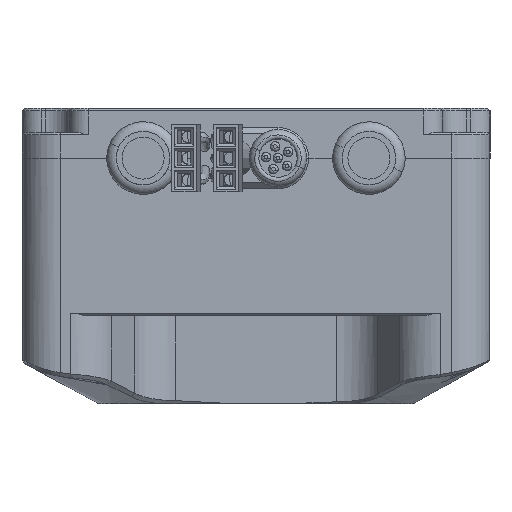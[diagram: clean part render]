
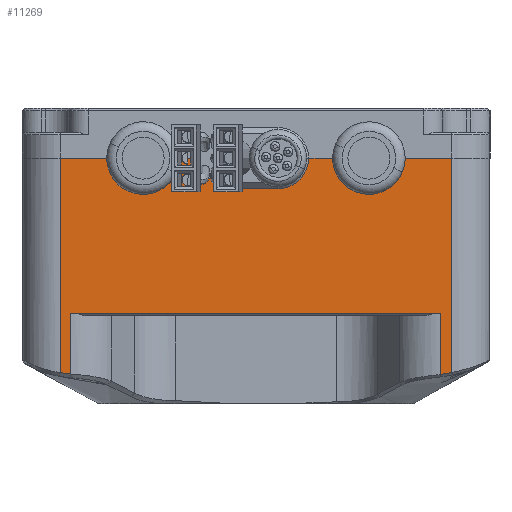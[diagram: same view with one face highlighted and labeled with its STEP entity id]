
A CAD part, left-side view. The second image highlights one B-rep face of the part: STEP entity #11269.
In plain terms, the highlighted planar face has unit normal (-1, 0, 0).
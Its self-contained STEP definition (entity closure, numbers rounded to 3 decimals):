
#405 = DIRECTION ( 'NONE',  ( 0., -1., 0. ) ) ;
#1528 = DIRECTION ( 'NONE',  ( -1., 0., 0. ) ) ;
#1611 = VERTEX_POINT ( 'NONE', #14687 ) ;
#1888 = EDGE_CURVE ( 'NONE', #6424, #31636, #35539, .T. ) ;
#2221 = VERTEX_POINT ( 'NONE', #2758 ) ;
#2758 = CARTESIAN_POINT ( 'NONE',  ( -32.649, -22.804, 8.25 ) ) ;
#2765 = EDGE_CURVE ( 'NONE', #20085, #53333, #43145, .T. ) ;
#3231 = VERTEX_POINT ( 'NONE', #52445 ) ;
#3248 = ORIENTED_EDGE ( 'NONE', *, *, #45598, .T. ) ;
#3408 = VERTEX_POINT ( 'NONE', #21738 ) ;
#3613 = VECTOR ( 'NONE', #42327, 1000. ) ;
#3898 = EDGE_CURVE ( 'NONE', #35942, #38834, #51789, .T. ) ;
#3917 = CARTESIAN_POINT ( 'NONE',  ( -32.649, 16.327, 1.934 ) ) ;
#4263 = B_SPLINE_CURVE_WITH_KNOTS ( 'NONE', 3,
 ( #35607, #38681, #51658, #21839 ),
 .UNSPECIFIED., .F., .F.,
 ( 4, 4 ),
 ( 0., 1. ),
 .UNSPECIFIED. ) ;
#5555 = EDGE_CURVE ( 'NONE', #3408, #38605, #19170, .T. ) ;
#5679 = CARTESIAN_POINT ( 'NONE',  ( -32.649, 8.342, 24.5 ) ) ;
#6332 = LINE ( 'NONE', #18968, #27639 ) ;
#6413 = CARTESIAN_POINT ( 'NONE',  ( -32.649, -5.78, 24.5 ) ) ;
#6424 = VERTEX_POINT ( 'NONE', #16618 ) ;
#6702 = DIRECTION ( 'NONE',  ( 0., 0., 1. ) ) ;
#6796 = DIRECTION ( 'NONE',  ( 0., 1., 0. ) ) ;
#8132 = CARTESIAN_POINT ( 'NONE',  ( -32.649, 17.02, 2.036 ) ) ;
#8530 = CARTESIAN_POINT ( 'NONE',  ( -32.649, -22.804, 1.5 ) ) ;
#8555 = EDGE_CURVE ( 'NONE', #42346, #31636, #8637, .T. ) ;
#8637 = LINE ( 'NONE', #25159, #40606 ) ;
#9279 = ORIENTED_EDGE ( 'NONE', *, *, #14634, .T. ) ;
#9354 = DIRECTION ( 'NONE',  ( 0., -1., 0. ) ) ;
#9377 = VECTOR ( 'NONE', #38038, 1000. ) ;
#10460 = AXIS2_PLACEMENT_3D ( 'NONE', #5679, #1528, #39047 ) ;
#10898 = ORIENTED_EDGE ( 'NONE', *, *, #8555, .T. ) ;
#11088 = LINE ( 'NONE', #24610, #27833 ) ;
#11089 = VECTOR ( 'NONE', #9354, 1000. ) ;
#11269 = ADVANCED_FACE ( 'NONE', ( #36985 ), #36426, .T. ) ;
#11721 = VECTOR ( 'NONE', #30705, 1000. ) ;
#12176 = CARTESIAN_POINT ( 'NONE',  ( -32.649, 16.515, 1.959 ) ) ;
#12452 = DIRECTION ( 'NONE',  ( 0., 0., 1. ) ) ;
#12731 = CARTESIAN_POINT ( 'NONE',  ( -32.649, 15.964, 1.899 ) ) ;
#13010 = AXIS2_PLACEMENT_3D ( 'NONE', #18210, #48047, #51922 ) ;
#13331 = CIRCLE ( 'NONE', #19492, 2.6 ) ;
#13771 = EDGE_CURVE ( 'NONE', #53333, #2221, #34331, .T. ) ;
#13784 = CARTESIAN_POINT ( 'NONE',  ( -32.649, -1.18, 21.9 ) ) ;
#14222 = CARTESIAN_POINT ( 'NONE',  ( -32.649, -22.804, 1.845 ) ) ;
#14634 = EDGE_CURVE ( 'NONE', #35942, #21351, #38816, .T. ) ;
#14687 = CARTESIAN_POINT ( 'NONE',  ( -32.649, -23.98, 2.054 ) ) ;
#15684 = CARTESIAN_POINT ( 'NONE',  ( -32.649, 5.042, 24.5 ) ) ;
#16618 = CARTESIAN_POINT ( 'NONE',  ( -32.649, -12.002, 24.5 ) ) ;
#16855 = LINE ( 'NONE', #41683, #28041 ) ;
#17757 = VERTEX_POINT ( 'NONE', #48382 ) ;
#17839 = EDGE_CURVE ( 'NONE', #1611, #42346, #11088, .T. ) ;
#18210 = CARTESIAN_POINT ( 'NONE',  ( -32.649, -1.18, 24.5 ) ) ;
#18245 = CARTESIAN_POINT ( 'NONE',  ( -32.649, -18.602, 24.5 ) ) ;
#18690 = EDGE_CURVE ( 'NONE', #27779, #1611, #4263, .T. ) ;
#18968 = CARTESIAN_POINT ( 'NONE',  ( -32.649, 21.02, 24.5 ) ) ;
#19170 = CIRCLE ( 'NONE', #13010, 2.6 ) ;
#19481 = ORIENTED_EDGE ( 'NONE', *, *, #13771, .T. ) ;
#19492 = AXIS2_PLACEMENT_3D ( 'NONE', #6413, #20704, #12452 ) ;
#19817 = ORIENTED_EDGE ( 'NONE', *, *, #38552, .T. ) ;
#20085 = VERTEX_POINT ( 'NONE', #12731 ) ;
#20448 = CARTESIAN_POINT ( 'NONE',  ( -32.649, 16.936, 2.021 ) ) ;
#20704 = DIRECTION ( 'NONE',  ( -1., 0., 0. ) ) ;
#20710 = CARTESIAN_POINT ( 'NONE',  ( -32.649, 15.964, 1.899 ) ) ;
#21293 = DIRECTION ( 'NONE',  ( 0., 1., 0. ) ) ;
#21351 = VERTEX_POINT ( 'NONE', #31180 ) ;
#21738 = CARTESIAN_POINT ( 'NONE',  ( -32.649, 1.42, 24.5 ) ) ;
#21839 = CARTESIAN_POINT ( 'NONE',  ( -32.649, -23.98, 2.054 ) ) ;
#22092 = CARTESIAN_POINT ( 'NONE',  ( -32.649, -15.302, 24.5 ) ) ;
#22898 = VECTOR ( 'NONE', #405, 1000. ) ;
#23133 = DIRECTION ( 'NONE',  ( 0., 1., 0. ) ) ;
#23178 = AXIS2_PLACEMENT_3D ( 'NONE', #23463, #32836, #24280 ) ;
#23463 = CARTESIAN_POINT ( 'NONE',  ( -32.649, 0., 0. ) ) ;
#24280 = DIRECTION ( 'NONE',  ( 0., 0., 1. ) ) ;
#24607 = CARTESIAN_POINT ( 'NONE',  ( -32.649, 16.807, 2. ) ) ;
#24610 = CARTESIAN_POINT ( 'NONE',  ( -32.649, -23.98, 24.5 ) ) ;
#25159 = CARTESIAN_POINT ( 'NONE',  ( -32.649, 21.02, 24.5 ) ) ;
#25497 = EDGE_CURVE ( 'NONE', #3408, #38834, #43134, .T. ) ;
#25794 = EDGE_CURVE ( 'NONE', #17757, #3231, #13331, .T. ) ;
#26160 = CARTESIAN_POINT ( 'NONE',  ( -32.649, 0., 21.9 ) ) ;
#27477 = EDGE_LOOP ( 'NONE', ( #38329, #9279, #19817, #38775, #28261, #19481, #3248, #53433, #28083, #10898, #38450, #35602, #41213, #28112, #39780, #33855 ) ) ;
#27639 = VECTOR ( 'NONE', #23133, 1000. ) ;
#27779 = VERTEX_POINT ( 'NONE', #14222 ) ;
#27833 = VECTOR ( 'NONE', #6702, 1000. ) ;
#28041 = VECTOR ( 'NONE', #40852, 1000. ) ;
#28083 = ORIENTED_EDGE ( 'NONE', *, *, #17839, .T. ) ;
#28112 = ORIENTED_EDGE ( 'NONE', *, *, #51476, .F. ) ;
#28176 = CARTESIAN_POINT ( 'NONE',  ( -32.649, 16.15, 1.915 ) ) ;
#28261 = ORIENTED_EDGE ( 'NONE', *, *, #2765, .T. ) ;
#30705 = DIRECTION ( 'NONE',  ( 0., 0., 1. ) ) ;
#30764 = EDGE_CURVE ( 'NONE', #6424, #3231, #6332, .T. ) ;
#31180 = CARTESIAN_POINT ( 'NONE',  ( -32.649, 17.02, 24.5 ) ) ;
#31636 = VERTEX_POINT ( 'NONE', #18245 ) ;
#31881 = CARTESIAN_POINT ( 'NONE',  ( -32.649, 21.02, 24.5 ) ) ;
#32024 = AXIS2_PLACEMENT_3D ( 'NONE', #22092, #51627, #51105 ) ;
#32825 = VERTEX_POINT ( 'NONE', #8132 ) ;
#32836 = DIRECTION ( 'NONE',  ( -1., 0., 0. ) ) ;
#33615 = LINE ( 'NONE', #8530, #9377 ) ;
#33855 = ORIENTED_EDGE ( 'NONE', *, *, #25497, .T. ) ;
#34028 = CARTESIAN_POINT ( 'NONE',  ( -32.649, 15.964, 8. ) ) ;
#34331 = LINE ( 'NONE', #50380, #22898 ) ;
#34562 = CARTESIAN_POINT ( 'NONE',  ( -32.649, 21.02, 24.5 ) ) ;
#35539 = CIRCLE ( 'NONE', #32024, 3.3 ) ;
#35602 = ORIENTED_EDGE ( 'NONE', *, *, #30764, .T. ) ;
#35607 = CARTESIAN_POINT ( 'NONE',  ( -32.649, -22.804, 1.845 ) ) ;
#35942 = VERTEX_POINT ( 'NONE', #51269 ) ;
#36426 = PLANE ( 'NONE',  #23178 ) ;
#36985 = FACE_OUTER_BOUND ( 'NONE', #27477, .T. ) ;
#37764 = LINE ( 'NONE', #26160, #11089 ) ;
#37990 = CARTESIAN_POINT ( 'NONE',  ( -32.649, 15.964, 8.25 ) ) ;
#38038 = DIRECTION ( 'NONE',  ( 0., 0., -1. ) ) ;
#38329 = ORIENTED_EDGE ( 'NONE', *, *, #3898, .F. ) ;
#38450 = ORIENTED_EDGE ( 'NONE', *, *, #1888, .F. ) ;
#38552 = EDGE_CURVE ( 'NONE', #21351, #32825, #16855, .T. ) ;
#38605 = VERTEX_POINT ( 'NONE', #13784 ) ;
#38681 = CARTESIAN_POINT ( 'NONE',  ( -32.649, -23.207, 1.899 ) ) ;
#38775 = ORIENTED_EDGE ( 'NONE', *, *, #48311, .T. ) ;
#38816 = LINE ( 'NONE', #31881, #39336 ) ;
#38834 = VERTEX_POINT ( 'NONE', #15684 ) ;
#39047 = DIRECTION ( 'NONE',  ( 0., 0., 1. ) ) ;
#39336 = VECTOR ( 'NONE', #6796, 1000. ) ;
#39780 = ORIENTED_EDGE ( 'NONE', *, *, #5555, .F. ) ;
#40606 = VECTOR ( 'NONE', #21293, 1000. ) ;
#40852 = DIRECTION ( 'NONE',  ( 0., 0., -1. ) ) ;
#41213 = ORIENTED_EDGE ( 'NONE', *, *, #25794, .F. ) ;
#41445 = CARTESIAN_POINT ( 'NONE',  ( -32.649, 16.539, 1.962 ) ) ;
#41683 = CARTESIAN_POINT ( 'NONE',  ( -32.649, 17.02, 0. ) ) ;
#41706 = CARTESIAN_POINT ( 'NONE',  ( -32.649, 16.585, 1.968 ) ) ;
#42327 = DIRECTION ( 'NONE',  ( 0., 1., 0. ) ) ;
#42346 = VERTEX_POINT ( 'NONE', #45396 ) ;
#43134 = LINE ( 'NONE', #34562, #3613 ) ;
#43145 = LINE ( 'NONE', #34028, #11721 ) ;
#45022 = CARTESIAN_POINT ( 'NONE',  ( -32.649, 16.652, 1.977 ) ) ;
#45396 = CARTESIAN_POINT ( 'NONE',  ( -32.649, -23.98, 24.5 ) ) ;
#45598 = EDGE_CURVE ( 'NONE', #2221, #27779, #33615, .T. ) ;
#48047 = DIRECTION ( 'NONE',  ( -1., 0., 0. ) ) ;
#48311 = EDGE_CURVE ( 'NONE', #32825, #20085, #51501, .T. ) ;
#48382 = CARTESIAN_POINT ( 'NONE',  ( -32.649, -5.78, 21.9 ) ) ;
#49724 = CARTESIAN_POINT ( 'NONE',  ( -32.649, 17.02, 2.036 ) ) ;
#50380 = CARTESIAN_POINT ( 'NONE',  ( -32.649, 0., 8.25 ) ) ;
#51105 = DIRECTION ( 'NONE',  ( 0., 0., 1. ) ) ;
#51269 = CARTESIAN_POINT ( 'NONE',  ( -32.649, 11.642, 24.5 ) ) ;
#51476 = EDGE_CURVE ( 'NONE', #38605, #17757, #37764, .T. ) ;
#51501 = B_SPLINE_CURVE_WITH_KNOTS ( 'NONE', 3,
 ( #49724, #20448, #24607, #45022, #41706, #41445, #12176, #3917, #28176, #20710 ),
 .UNSPECIFIED., .F., .F.,
 ( 4, 1, 1, 2, 2, 4 ),
 ( 0., 0.25, 0.375, 0.437, 0.5, 1. ),
 .UNSPECIFIED. ) ;
#51627 = DIRECTION ( 'NONE',  ( -1., 0., 0. ) ) ;
#51658 = CARTESIAN_POINT ( 'NONE',  ( -32.649, -23.599, 1.968 ) ) ;
#51789 = CIRCLE ( 'NONE', #10460, 3.3 ) ;
#51922 = DIRECTION ( 'NONE',  ( 0., 0., 1. ) ) ;
#52445 = CARTESIAN_POINT ( 'NONE',  ( -32.649, -8.38, 24.5 ) ) ;
#53333 = VERTEX_POINT ( 'NONE', #37990 ) ;
#53433 = ORIENTED_EDGE ( 'NONE', *, *, #18690, .T. ) ;
